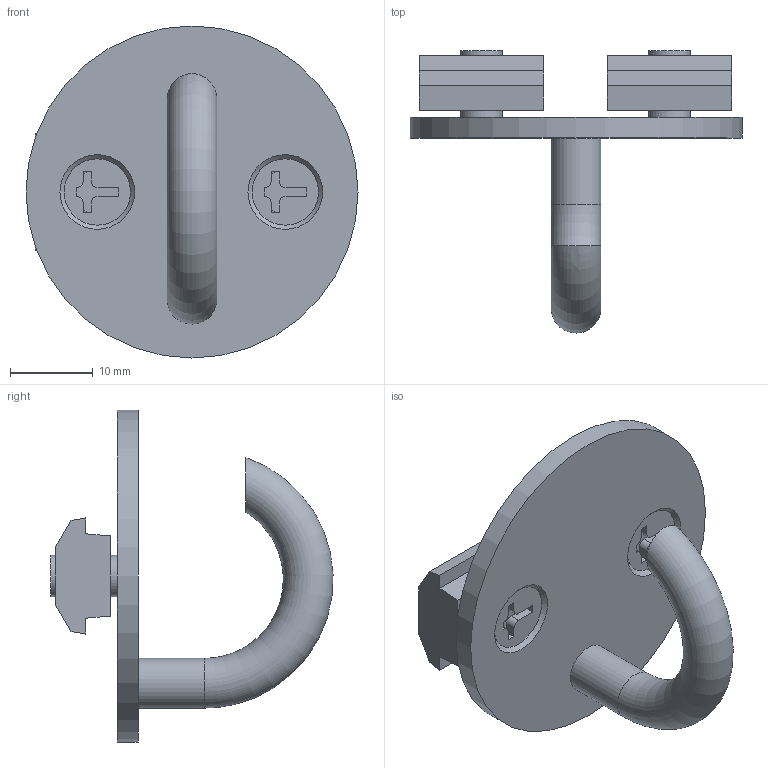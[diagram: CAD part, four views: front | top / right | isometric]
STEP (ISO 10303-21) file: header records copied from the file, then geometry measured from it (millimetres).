
FILE_DESCRIPTION(('STEP AP214'),'1');
FILE_NAME('ORI6-B.stp','2017-07-18T04:27:37',(' '),(' '),'Spatial InterOp 3D',' ',' ');
FILE_SCHEMA(('automotive_design'));
Length unit declared in the file: millimetre
Products named in the file (4): ORI6-B; パーツ44; ORI6-H; NF40-M5
Assembly tree (5 placements, depth 2):
  ORI6-B
    パーツ44  x2
    ORI6-H
    NF40-M5  x2
Bounding box: 40 x 33.99 x 40 mm (x, y, z)
Volume: 6469.5 mm3; surface area: 5659.6 mm2
Topology: 5 solids, 5 shells, 74 faces, 191 edges, 126 vertices
Faces by surface type: plane 53, cylinder 16, cone 4, torus 1
Full cylindrical faces by diameter (mm): 5 x4, 6 x3, 40 x1
Entity records: 1711 total; most frequent: CARTESIAN_POINT 283, DIRECTION 210, ORIENTED_EDGE 188, EDGE_CURVE 94, AXIS2_PLACEMENT_3D 73, VERTEX_POINT 68, LINE 64, VECTOR 64
